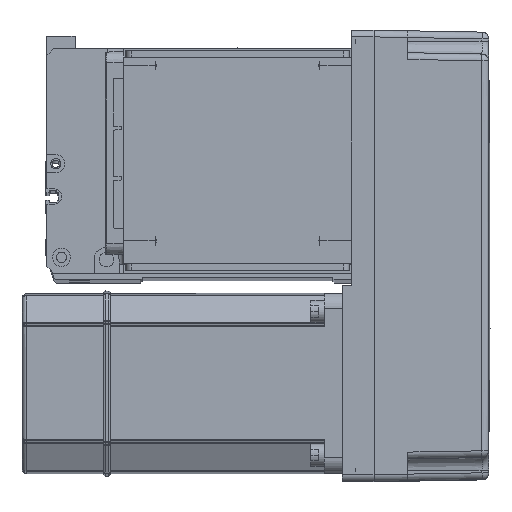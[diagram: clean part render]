
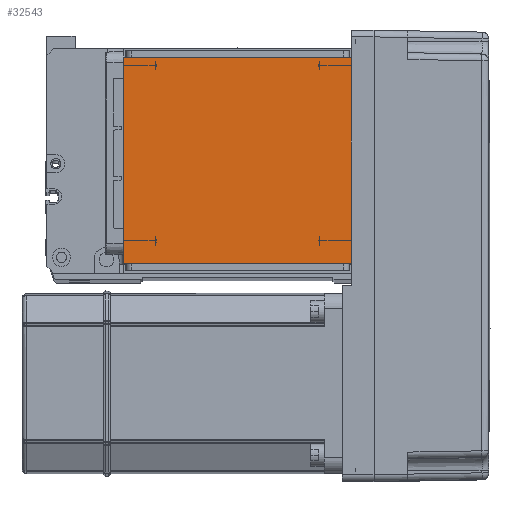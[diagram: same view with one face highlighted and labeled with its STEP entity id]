
A CAD part, top view. The second image highlights one B-rep face of the part: STEP entity #32543.
In plain terms, the highlighted planar face has unit normal (0, 0, 1).
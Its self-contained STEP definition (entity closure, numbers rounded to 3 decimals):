
#435 = LINE ( 'NONE', #45254, #51539 ) ;
#6149 = DIRECTION ( 'NONE',  ( 0., 0., 1. ) ) ;
#7959 = CARTESIAN_POINT ( 'NONE',  ( -70.004, 111.5, 115. ) ) ;
#10339 = ORIENTED_EDGE ( 'NONE', *, *, #36431, .F. ) ;
#10592 = EDGE_CURVE ( 'NONE', #28299, #22225, #26910, .T. ) ;
#11012 = VECTOR ( 'NONE', #30803, 1000. ) ;
#11922 = CARTESIAN_POINT ( 'NONE',  ( 50.5, 20., 115. ) ) ;
#15165 = CARTESIAN_POINT ( 'NONE',  ( 0., 0., 115. ) ) ;
#15784 = ORIENTED_EDGE ( 'NONE', *, *, #27831, .F. ) ;
#15822 = LINE ( 'NONE', #34573, #21395 ) ;
#16974 = ORIENTED_EDGE ( 'NONE', *, *, #49991, .T. ) ;
#19026 = DIRECTION ( 'NONE',  ( -1., 0., 0. ) ) ;
#21395 = VECTOR ( 'NONE', #34387, 1000. ) ;
#22225 = VERTEX_POINT ( 'NONE', #30885 ) ;
#23927 = FACE_OUTER_BOUND ( 'NONE', #52407, .T. ) ;
#26910 = LINE ( 'NONE', #48536, #11012 ) ;
#27831 = EDGE_CURVE ( 'NONE', #29977, #22225, #435, .T. ) ;
#28299 = VERTEX_POINT ( 'NONE', #44452 ) ;
#29977 = VERTEX_POINT ( 'NONE', #11922 ) ;
#30803 = DIRECTION ( 'NONE',  ( 0., -1., 0. ) ) ;
#30885 = CARTESIAN_POINT ( 'NONE',  ( -50.5, 20., 115. ) ) ;
#32543 = ADVANCED_FACE ( 'NONE', ( #23927 ), #36765, .T. ) ;
#32711 = VERTEX_POINT ( 'NONE', #54410 ) ;
#34387 = DIRECTION ( 'NONE',  ( 0., 1., 0. ) ) ;
#34573 = CARTESIAN_POINT ( 'NONE',  ( 50.5, 122., 115. ) ) ;
#36431 = EDGE_CURVE ( 'NONE', #28299, #32711, #42148, .T. ) ;
#36765 = PLANE ( 'NONE',  #40697 ) ;
#37292 = VECTOR ( 'NONE', #38971, 1000. ) ;
#37520 = ORIENTED_EDGE ( 'NONE', *, *, #10592, .T. ) ;
#38971 = DIRECTION ( 'NONE',  ( 1., 0., 0. ) ) ;
#40697 = AXIS2_PLACEMENT_3D ( 'NONE', #15165, #6149, #54211 ) ;
#42148 = LINE ( 'NONE', #7959, #37292 ) ;
#44452 = CARTESIAN_POINT ( 'NONE',  ( -50.5, 111.5, 115. ) ) ;
#45254 = CARTESIAN_POINT ( 'NONE',  ( -70.004, 20., 115. ) ) ;
#48536 = CARTESIAN_POINT ( 'NONE',  ( -50.5, 122., 115. ) ) ;
#49991 = EDGE_CURVE ( 'NONE', #29977, #32711, #15822, .T. ) ;
#51539 = VECTOR ( 'NONE', #19026, 1000. ) ;
#52407 = EDGE_LOOP ( 'NONE', ( #10339, #37520, #15784, #16974 ) ) ;
#54211 = DIRECTION ( 'NONE',  ( 1., 0., 0. ) ) ;
#54410 = CARTESIAN_POINT ( 'NONE',  ( 50.5, 111.5, 115. ) ) ;
